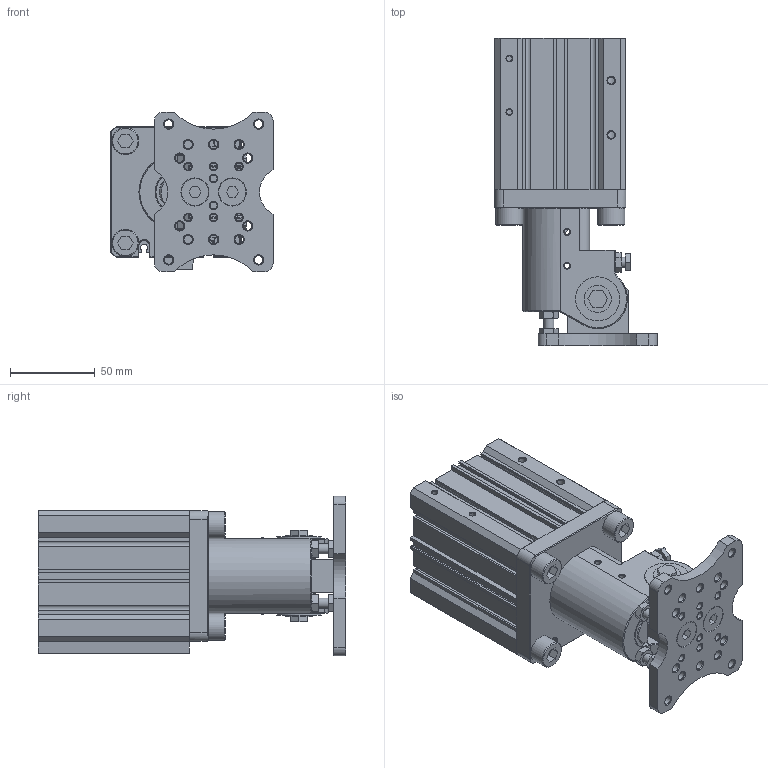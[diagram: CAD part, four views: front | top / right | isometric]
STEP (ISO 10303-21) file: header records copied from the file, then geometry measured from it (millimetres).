
FILE_DESCRIPTION(/* description */ (''),/* implementation_level */ '2;1');
FILE_NAME(/* name */ '_model1.stp',/* time_stamp */ '2023-05-31T09:22:17+08:00',/* author */ (''),/* organization */ (''),/* preprocessor_version */ 'ST-DEVELOPER v14',/* originating_system */ 'SIEMENS PLM Software NX 8.0',/* authorisation */ '');
FILE_SCHEMA (('AP203_CONFIGURATION_CONTROLLED_3D_DESIGN_OF_MECHANICAL_PARTS_AND_ASSEMBLIES_MIM_LF { 1 0 10303 403 2 1 2}'));
Length unit declared in the file: millimetre
Products named in the file (1): Admi0FF02E9Cg4lb
Bounding box: 95.49 x 181.02 x 94 mm (x, y, z)
Volume: 664937.6 mm3; surface area: 156214.4 mm2
Topology: 31 solids, 31 shells, 816 faces, 2002 edges, 1297 vertices
Faces by surface type: plane 430, cylinder 183, cone 169, sphere 24, torus 6, bspline 4
Full cylindrical faces by diameter (mm): 2 x2, 2.5 x7, 3 x2, 3.3 x6, 4.2 x10, 5 x24, 6 x10, 6.2 x1, 6.5 x2, 6.75 x2, 8 x2, 8.5 x4, 10 x4, 10.6 x4, 11.6 x2, 12 x10, 16 x8, 20 x5, 20.5 x1, 22.8 x1, 23 x2, 24 x2, 26 x2, 28 x1, 38 x2, 38.5 x1, 64.8 x1, 65 x3, 68.5 x2
Entity records: 25166 total; most frequent: CARTESIAN_POINT 7174, DIRECTION 3678, ORIENTED_EDGE 3274, EDGE_CURVE 1637, AXIS2_PLACEMENT_3D 1389, EDGE_LOOP 1250, VERTEX_POINT 1189, LINE 900
